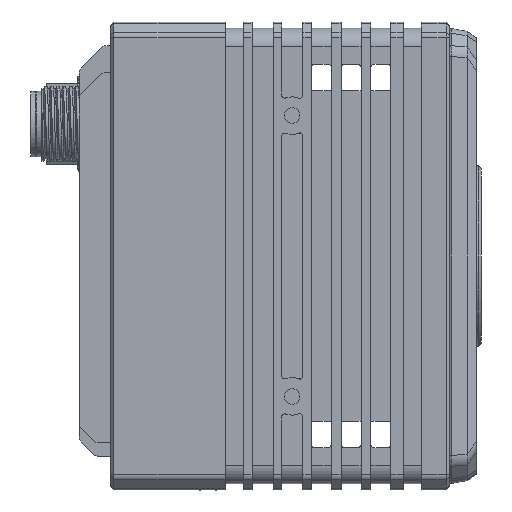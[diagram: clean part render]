
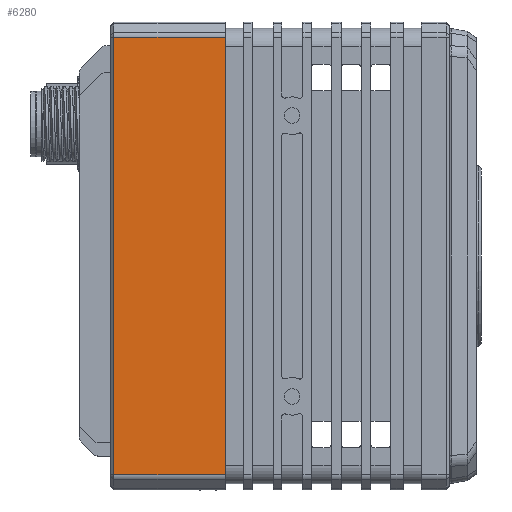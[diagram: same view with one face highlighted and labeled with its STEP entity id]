
A CAD part, left-side view. The second image highlights one B-rep face of the part: STEP entity #6280.
In plain terms, the highlighted planar face has unit normal (-1, 0, 0).
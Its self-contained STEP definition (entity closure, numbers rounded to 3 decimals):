
#92=DIRECTION('',(0.,-1.,0.));
#93=VECTOR('',#92,17.9);
#94=CARTESIAN_POINT('',(60.,50.8,-133.086));
#95=LINE('',#94,#93);
#96=DIRECTION('',(0.,-1.,0.));
#97=VECTOR('',#96,17.9);
#98=CARTESIAN_POINT('',(60.,50.8,-62.914));
#99=LINE('',#98,#97);
#183=DIRECTION('',(0.,0.,-1.));
#184=VECTOR('',#183,70.172);
#185=CARTESIAN_POINT('',(60.,32.9,-62.914));
#186=LINE('',#185,#184);
#586=DIRECTION('',(0.,0.,1.));
#587=VECTOR('',#586,70.172);
#588=CARTESIAN_POINT('',(60.,50.8,-133.086));
#589=LINE('',#588,#587);
#4693=CARTESIAN_POINT('',(60.,50.8,-62.914));
#4694=VERTEX_POINT('',#4693);
#4695=CARTESIAN_POINT('',(60.,50.8,-133.086));
#4696=VERTEX_POINT('',#4695);
#5578=CARTESIAN_POINT('',(60.,32.9,-62.914));
#5579=VERTEX_POINT('',#5578);
#5580=CARTESIAN_POINT('',(60.,32.9,-133.086));
#5581=VERTEX_POINT('',#5580);
#6266=CARTESIAN_POINT('',(60.,50.8,-62.914));
#6267=DIRECTION('',(-1.,0.,0.));
#6268=DIRECTION('',(0.,1.,0.));
#6269=AXIS2_PLACEMENT_3D('',#6266,#6267,#6268);
#6270=PLANE('',#6269);
#6272=ORIENTED_EDGE('',*,*,#6271,.T.);
#6274=ORIENTED_EDGE('',*,*,#6273,.T.);
#6275=ORIENTED_EDGE('',*,*,#6256,.F.);
#6277=ORIENTED_EDGE('',*,*,#6276,.T.);
#6278=EDGE_LOOP('',(#6272,#6274,#6275,#6277));
#6279=FACE_OUTER_BOUND('',#6278,.F.);
#6256=EDGE_CURVE('',#4696,#5581,#95,.T.);
#6271=EDGE_CURVE('',#4694,#5579,#99,.T.);
#6273=EDGE_CURVE('',#5579,#5581,#186,.T.);
#6276=EDGE_CURVE('',#4696,#4694,#589,.T.);
#6280=ADVANCED_FACE('',(#6279),#6270,.T.);
